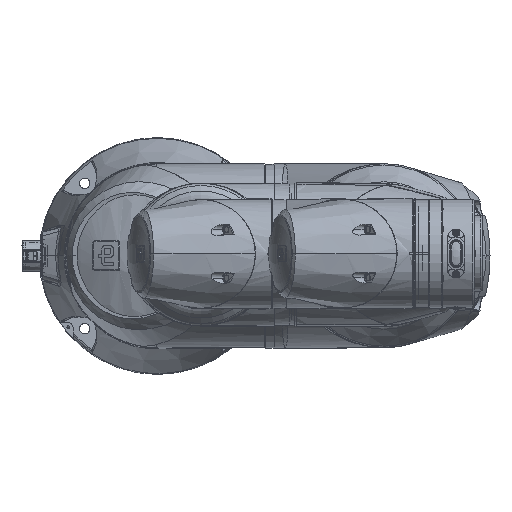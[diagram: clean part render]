
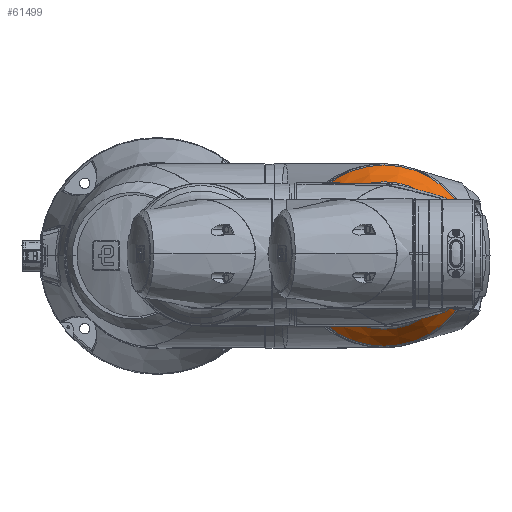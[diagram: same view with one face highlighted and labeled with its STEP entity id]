
A CAD part, top view. The second image highlights one B-rep face of the part: STEP entity #61499.
In plain terms, the highlighted conical face has half-angle 30 degrees and reference radius 74.928 mm.
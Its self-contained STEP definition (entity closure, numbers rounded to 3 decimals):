
#1257=CONICAL_SURFACE('',#66550,74.928,0.524);
#10786=FACE_OUTER_BOUND('',#14455,.T.);
#14455=EDGE_LOOP('',(#48959,#48960,#48961,#48962));
#17732=CIRCLE('',#66549,61.01);
#17733=CIRCLE('',#66551,74.928);
#20470=LINE('',#161827,#23998);
#23998=VECTOR('',#76163,74.928);
#28545=VERTEX_POINT('',#161821);
#28546=VERTEX_POINT('',#161825);
#35824=EDGE_CURVE('',#28545,#28545,#17732,.T.);
#35825=EDGE_CURVE('',#28546,#28546,#17733,.T.);
#35826=EDGE_CURVE('',#28546,#28545,#20470,.T.);
#48959=ORIENTED_EDGE('',*,*,#35825,.T.);
#48960=ORIENTED_EDGE('',*,*,#35826,.T.);
#48961=ORIENTED_EDGE('',*,*,#35824,.F.);
#48962=ORIENTED_EDGE('',*,*,#35826,.F.);
#61499=ADVANCED_FACE('',(#10786),#1257,.T.);
#66549=AXIS2_PLACEMENT_3D('',#161823,#76157,#76158);
#66550=AXIS2_PLACEMENT_3D('',#161824,#76159,#76160);
#66551=AXIS2_PLACEMENT_3D('',#161826,#76161,#76162);
#76157=DIRECTION('center_axis',(0.,1.,0.));
#76158=DIRECTION('ref_axis',(0.,0.,
1.));
#76159=DIRECTION('center_axis',(0.,-1.,0.));
#76160=DIRECTION('ref_axis',(0.,0.,
1.));
#76161=DIRECTION('center_axis',(0.,1.,0.));
#76162=DIRECTION('ref_axis',(0.,0.,
1.));
#76163=DIRECTION('',(0.,0.866,0.5));
#161821=CARTESIAN_POINT('',(0.,51.198,-61.01));
#161823=CARTESIAN_POINT('Origin',(0.,51.198,
0.));
#161824=CARTESIAN_POINT('Origin',(0.,27.09,
0.));
#161825=CARTESIAN_POINT('',(0.,27.09,-74.928));
#161826=CARTESIAN_POINT('Origin',(0.,27.09,
0.));
#161827=CARTESIAN_POINT('',(0.,27.09,-74.928));
